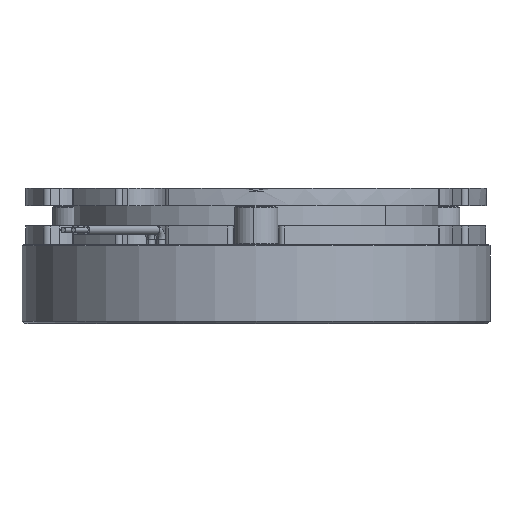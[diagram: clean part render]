
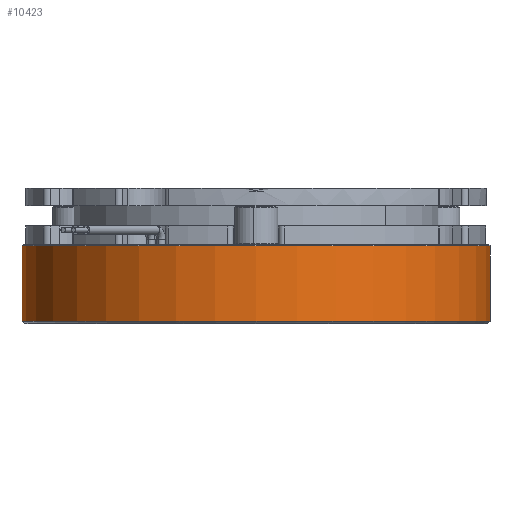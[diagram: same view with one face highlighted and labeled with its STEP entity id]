
A CAD part, front view. The second image highlights one B-rep face of the part: STEP entity #10423.
In plain terms, the highlighted cylindrical face has radius 46.75 mm (diameter 93.5 mm), a partial arc.
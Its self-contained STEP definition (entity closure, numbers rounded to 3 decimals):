
#498 = EDGE_LOOP ( 'NONE', ( #7866, #7857, #7864, #7844 ) ) ;
#752 = VECTOR ( 'NONE', #11986, 1000. ) ;
#794 = CIRCLE ( 'NONE', #2514, 46.75 ) ;
#795 = LINE ( 'NONE', #11988, #878 ) ;
#830 = LINE ( 'NONE', #11984, #752 ) ;
#878 = VECTOR ( 'NONE', #11985, 1000. ) ;
#1856 = FACE_OUTER_BOUND ( 'NONE', #498, .T. ) ;
#1869 = CYLINDRICAL_SURFACE ( 'NONE', #2527, 46.75 ) ;
#2514 = AXIS2_PLACEMENT_3D ( 'NONE', #11970, #11971, #11972 ) ;
#2527 = AXIS2_PLACEMENT_3D ( 'NONE', #11490, #11479, #11498 ) ;
#6024 = EDGE_CURVE ( 'NONE', #8335, #8365, #13327, .T. ) ;
#7844 = ORIENTED_EDGE ( 'NONE', *, *, #6024, .T. ) ;
#7857 = ORIENTED_EDGE ( 'NONE', *, *, #8797, .T. ) ;
#7864 = ORIENTED_EDGE ( 'NONE', *, *, #8806, .T. ) ;
#7866 = ORIENTED_EDGE ( 'NONE', *, *, #8803, .F. ) ;
#8188 = VERTEX_POINT ( 'NONE', #11094 ) ;
#8335 = VERTEX_POINT ( 'NONE', #11209 ) ;
#8365 = VERTEX_POINT ( 'NONE', #11239 ) ;
#8371 = VERTEX_POINT ( 'NONE', #11245 ) ;
#8797 = EDGE_CURVE ( 'NONE', #8371, #8188, #794, .T. ) ;
#8803 = EDGE_CURVE ( 'NONE', #8371, #8365, #830, .T. ) ;
#8806 = EDGE_CURVE ( 'NONE', #8188, #8335, #795, .T. ) ;
#10423 = ADVANCED_FACE ( 'NONE', ( #1856 ), #1869, .T. ) ;
#11094 = CARTESIAN_POINT ( 'NONE',  ( -46.75, 0., 15.5 ) ) ;
#11209 = CARTESIAN_POINT ( 'NONE',  ( -46.75, 0., 0.5 ) ) ;
#11239 = CARTESIAN_POINT ( 'NONE',  ( 46.75, 0., 0.5 ) ) ;
#11245 = CARTESIAN_POINT ( 'NONE',  ( 46.75, 0., 15.5 ) ) ;
#11479 = DIRECTION ( 'NONE',  ( 0., 0., -1. ) ) ;
#11490 = CARTESIAN_POINT ( 'NONE',  ( 0., 0., 15.7 ) ) ;
#11498 = DIRECTION ( 'NONE',  ( -1., 0., 0. ) ) ;
#11970 = CARTESIAN_POINT ( 'NONE',  ( 0., 0., 15.5 ) ) ;
#11971 = DIRECTION ( 'NONE',  ( 0., 0., -1. ) ) ;
#11972 = DIRECTION ( 'NONE',  ( 1., 0., 0. ) ) ;
#11984 = CARTESIAN_POINT ( 'NONE',  ( 46.75, 0., 15.7 ) ) ;
#11985 = DIRECTION ( 'NONE',  ( 0., 0., -1. ) ) ;
#11986 = DIRECTION ( 'NONE',  ( 0., 0., -1. ) ) ;
#11988 = CARTESIAN_POINT ( 'NONE',  ( -46.75, 0., 15.7 ) ) ;
#12717 = AXIS2_PLACEMENT_3D ( 'NONE', #12908, #12909, #12910 ) ;
#12908 = CARTESIAN_POINT ( 'NONE',  ( 0., 0., 0.5 ) ) ;
#12909 = DIRECTION ( 'NONE',  ( 0., 0., 1. ) ) ;
#12910 = DIRECTION ( 'NONE',  ( 1., 0., 0. ) ) ;
#13327 = CIRCLE ( 'NONE', #12717, 46.75 ) ;
